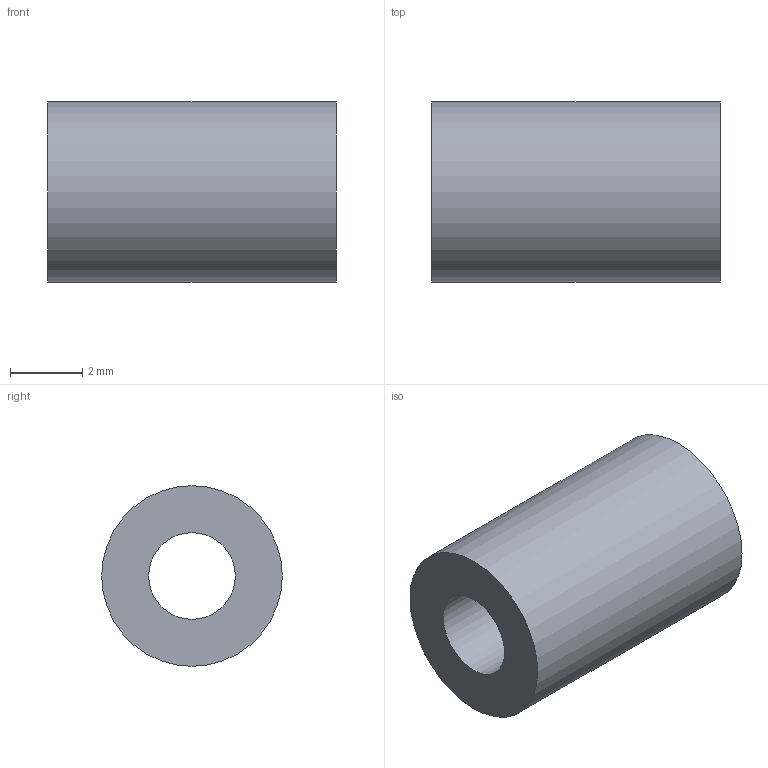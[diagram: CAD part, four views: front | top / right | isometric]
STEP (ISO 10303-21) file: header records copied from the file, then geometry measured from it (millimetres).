
FILE_DESCRIPTION(('Open CASCADE Model'),'2;1');
FILE_NAME('Open CASCADE Shape Model','2026-10-04T02:31:41',('Author'),( 'Open CASCADE'),'Open CASCADE STEP processor 8.0','Open CASCADE 8.0' ,'Unknown');
FILE_SCHEMA(('AUTOMOTIVE_DESIGN { 1 0 10303 214 1 1 1 1 }'));
Length unit declared in the file: millimetre
Products named in the file (1): Open CASCADE STEP translator 8.0 282
Bounding box: 8 x 5 x 5 mm (x, y, z)
Volume: 120.9 mm3; surface area: 216.2 mm2
Topology: 1 solids, 1 shells, 4 faces, 6 edges, 4 vertices
Faces by surface type: cylinder 2, plane 2
Full cylindrical faces by diameter (mm): 2.4 x1, 5 x1
Entity records: 186 total; most frequent: DIRECTION 32, CARTESIAN_POINT 27, ORIENTED_EDGE 12, PCURVE 12, DEFINITIONAL_REPRESENTATION 12, LINE 10, VECTOR 10, AXIS2_PLACEMENT_3D 9
